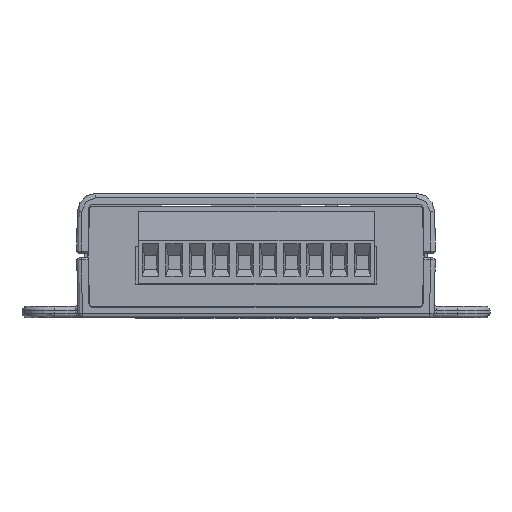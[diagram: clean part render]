
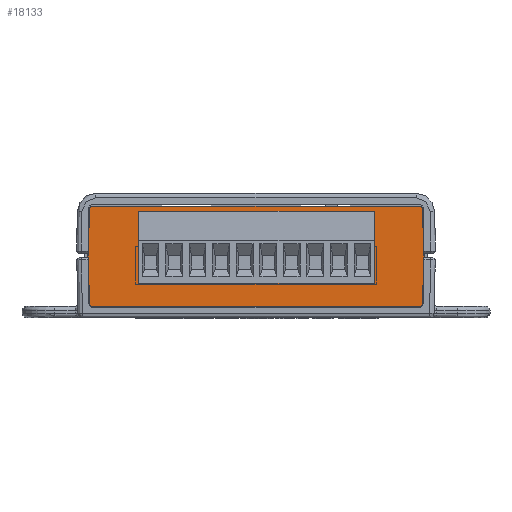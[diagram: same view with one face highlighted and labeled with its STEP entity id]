
A CAD part, front view. The second image highlights one B-rep face of the part: STEP entity #18133.
In plain terms, the highlighted planar face has unit normal (0, -1, 0) as drawn and (0, 0, 1) by its records, which use the part's own axes.
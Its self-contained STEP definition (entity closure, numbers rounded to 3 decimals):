
#18133=ADVANCED_FACE('NONE',(#37003),#37004,.T.);
#37003=FACE_OUTER_BOUND('',#60798,.T.);
#37004=PLANE('',#60799);
#60798=EDGE_LOOP('',(#113082,#113083,#113084,#113085,#113086,#113087,#113088,#113089,#113090,#113091));
#60799=AXIS2_PLACEMENT_3D('',#113092,#113093,#113094);
#113082=ORIENTED_EDGE('',*,*,#142107,.T.);
#113083=ORIENTED_EDGE('',*,*,#142246,.T.);
#113084=ORIENTED_EDGE('',*,*,#142242,.T.);
#113085=ORIENTED_EDGE('',*,*,#142225,.T.);
#113086=ORIENTED_EDGE('',*,*,#142247,.T.);
#113087=ORIENTED_EDGE('',*,*,#142228,.T.);
#113088=ORIENTED_EDGE('',*,*,#142248,.T.);
#113089=ORIENTED_EDGE('',*,*,#142233,.T.);
#113090=ORIENTED_EDGE('',*,*,#142240,.T.);
#113091=ORIENTED_EDGE('',*,*,#142249,.T.);
#113092=CARTESIAN_POINT('',(0.0,0.0,1.3));
#113093=DIRECTION('',(-0.0,0.0,1.0));
#113094=DIRECTION('',(1.0,0.0,0.0));
#142107=EDGE_CURVE('NONE',#173026,#173024,#173027,.T.);
#142225=EDGE_CURVE('NONE',#173257,#173255,#173258,.T.);
#142228=EDGE_CURVE('NONE',#173261,#173262,#173263,.T.);
#142233=EDGE_CURVE('NONE',#173270,#173271,#173272,.T.);
#142240=EDGE_CURVE('NONE',#173271,#173281,#173283,.T.);
#142242=EDGE_CURVE('NONE',#173285,#173257,#173286,.T.);
#142246=EDGE_CURVE('NONE',#173024,#173285,#173291,.T.);
#142247=EDGE_CURVE('NONE',#173255,#173261,#173292,.T.);
#142248=EDGE_CURVE('NONE',#173262,#173270,#173293,.T.);
#142249=EDGE_CURVE('NONE',#173281,#173026,#173294,.T.);
#173024=VERTEX_POINT('NONE',#218511);
#173026=VERTEX_POINT('NONE',#218514);
#173027=LINE('',#218515,#218516);
#173255=VERTEX_POINT('NONE',#219347);
#173257=VERTEX_POINT('NONE',#219350);
#173258=LINE('',#219351,#219352);
#173261=VERTEX_POINT('NONE',#219356);
#173262=VERTEX_POINT('NONE',#219357);
#173263=LINE('',#219358,#219359);
#173270=VERTEX_POINT('NONE',#219369);
#173271=VERTEX_POINT('NONE',#219370);
#173272=LINE('',#219371,#219372);
#173281=VERTEX_POINT('NONE',#219385);
#173283=LINE('',#219388,#219389);
#173285=VERTEX_POINT('NONE',#219391);
#173286=LINE('',#219392,#219393);
#173291=CIRCLE('',#219400,0.5);
#173292=CIRCLE('',#219401,0.5);
#173293=CIRCLE('',#219402,0.5);
#173294=CIRCLE('',#219403,0.5);
#218511=CARTESIAN_POINT('',(-35.395,21.777,1.3));
#218514=CARTESIAN_POINT('',(35.395,21.777,1.3));
#218515=CARTESIAN_POINT('',(-35.9,21.777,1.3));
#218516=VECTOR('',#245254,1000.0);
#219347=CARTESIAN_POINT('',(-35.895,0.505,1.3));
#219350=CARTESIAN_POINT('',(-36.258,10.9,1.3));
#219351=CARTESIAN_POINT('',(-36.258,10.901,1.3));
#219352=VECTOR('',#245339,1000.0);
#219356=CARTESIAN_POINT('',(-35.395,0.023,1.3));
#219357=CARTESIAN_POINT('',(35.395,0.023,1.3));
#219358=CARTESIAN_POINT('',(-35.9,0.023,1.3));
#219359=VECTOR('',#245341,1000.0);
#219369=CARTESIAN_POINT('',(35.895,0.505,1.3));
#219370=CARTESIAN_POINT('',(36.258,10.9,1.3));
#219371=CARTESIAN_POINT('',(36.258,10.901,1.3));
#219372=VECTOR('',#245345,1000.0);
#219385=CARTESIAN_POINT('',(35.895,21.295,1.3));
#219388=CARTESIAN_POINT('',(35.877,21.799,1.3));
#219389=VECTOR('',#245351,1000.0);
#219391=CARTESIAN_POINT('',(-35.895,21.295,1.3));
#219392=CARTESIAN_POINT('',(-35.877,21.799,1.3));
#219393=VECTOR('',#245352,1000.0);
#219400=AXIS2_PLACEMENT_3D('',#245355,#245356,#245357);
#219401=AXIS2_PLACEMENT_3D('',#245358,#245359,#245360);
#219402=AXIS2_PLACEMENT_3D('',#245361,#245362,#245363);
#219403=AXIS2_PLACEMENT_3D('',#245364,#245365,#245366);
#245254=DIRECTION('',(-1.0,0.0,-0.0));
#245339=DIRECTION('',(0.035,-0.999,0.0));
#245341=DIRECTION('',(1.0,-0.0,-0.0));
#245345=DIRECTION('',(0.035,0.999,0.));
#245351=DIRECTION('',(-0.035,0.999,-0.0));
#245352=DIRECTION('',(-0.035,-0.999,-0.0));
#245355=CARTESIAN_POINT('',(-35.395,21.277,1.3));
#245356=DIRECTION('',(0.0,-0.0,1.0));
#245357=DIRECTION('',(0.,1.,0.0));
#245358=CARTESIAN_POINT('',(-35.395,0.523,1.3));
#245359=DIRECTION('',(0.0,0.0,1.0));
#245360=DIRECTION('',(-0.999,-0.035,0.0));
#245361=CARTESIAN_POINT('',(35.395,0.523,1.3));
#245362=DIRECTION('',(0.0,0.0,1.0));
#245363=DIRECTION('',(0.,-1.,0.0));
#245364=CARTESIAN_POINT('',(35.395,21.277,1.3));
#245365=DIRECTION('',(0.,0.,1.0));
#245366=DIRECTION('',(0.999,0.035,0.));
